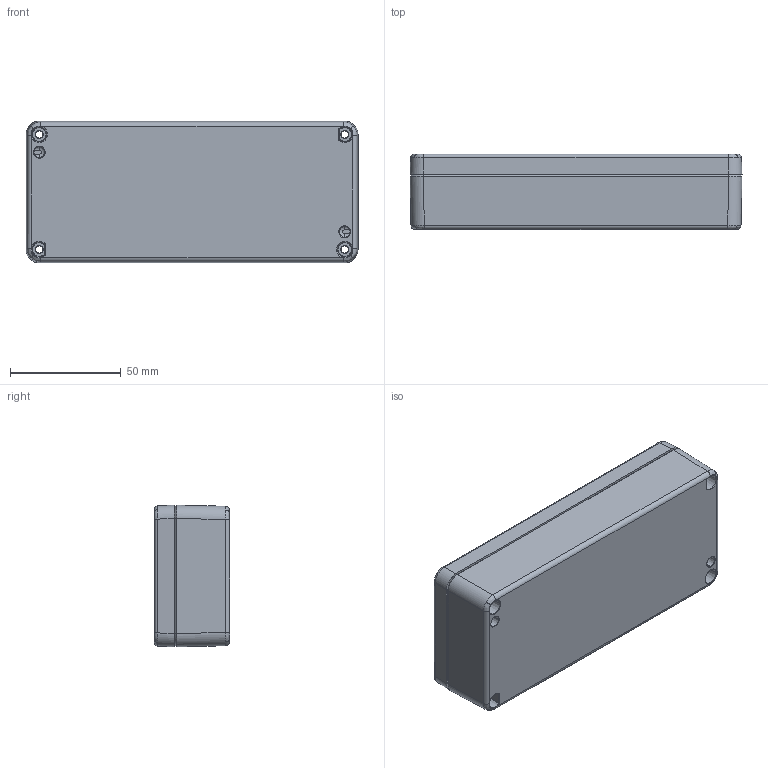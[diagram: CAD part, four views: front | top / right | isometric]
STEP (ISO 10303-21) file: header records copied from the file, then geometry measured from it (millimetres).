
FILE_DESCRIPTION (( 'STEP AP203' ), '1' );
FILE_NAME ('BB024.STEP', '2024-12-28T13:39:24', ( '' ), ( '' ), 'SwSTEP 2.0', 'SolidWorks 2019', '' );
FILE_SCHEMA (( 'CONFIG_CONTROL_DESIGN' ));
Length unit declared in the file: millimetre
Products named in the file (3): COVER _64X150X34; HOUSING _64X150X34; BB024
Assembly tree (2 placements, depth 2):
  BB024
    HOUSING _64X150X34
    COVER _64X150X34
Bounding box: 150 x 34 x 64 mm (x, y, z)
Volume: 97894.7 mm3; surface area: 67260.9 mm2
Topology: 2 solids, 2 shells, 801 faces, 1859 edges, 1072 vertices
Faces by surface type: bspline 270, cylinder 196, torus 128, plane 124, cone 79, sphere 4
Entity records: 35060 total; most frequent: CARTESIAN_POINT 18076, ORIENTED_EDGE 3686, DIRECTION 3297, EDGE_CURVE 1843, AXIS2_PLACEMENT_3D 1371, VERTEX_POINT 1072, EDGE_LOOP 847, CIRCLE 835
